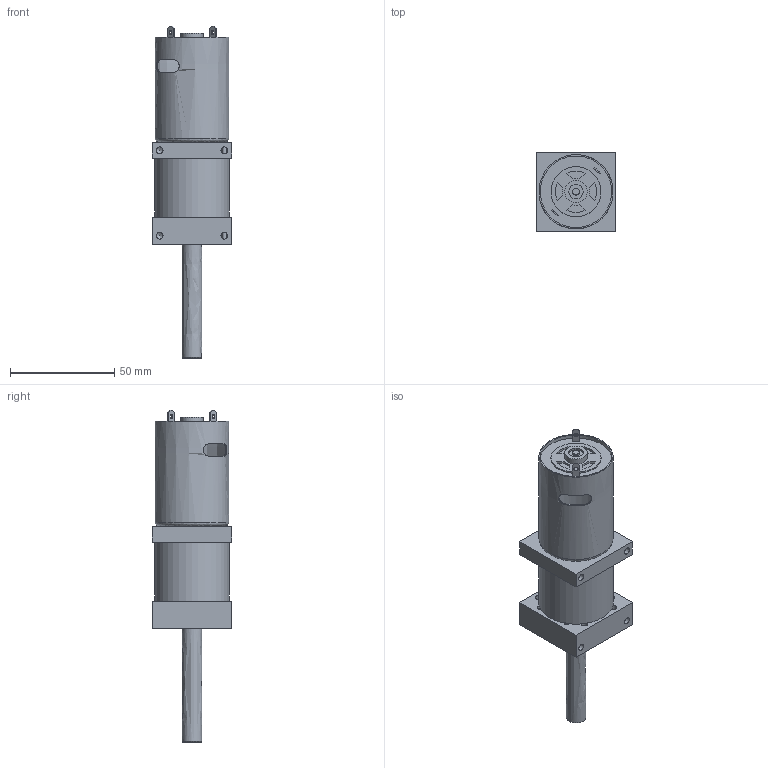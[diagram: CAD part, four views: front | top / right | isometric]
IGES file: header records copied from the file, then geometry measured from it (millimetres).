
Global section: file name: No Iges File Name specified; native system: AutoDesk Inventor R5.0; preprocessor: AutoDesk Inventor Iges Exporter R5.0; author: No Author specified; organization: No Organization specified; date: 20070112.200217; units: millimetre
Bounding box: 38.1 x 38.1 x 158.9 mm (x, y, z)
Surface area: 38064.1 mm2 (no closed solid volume)
Topology: 0 solids, 0 shells, 204 faces, 866 edges, 775 vertices
Faces by surface type: plane 81, revolution 71, bspline 52
